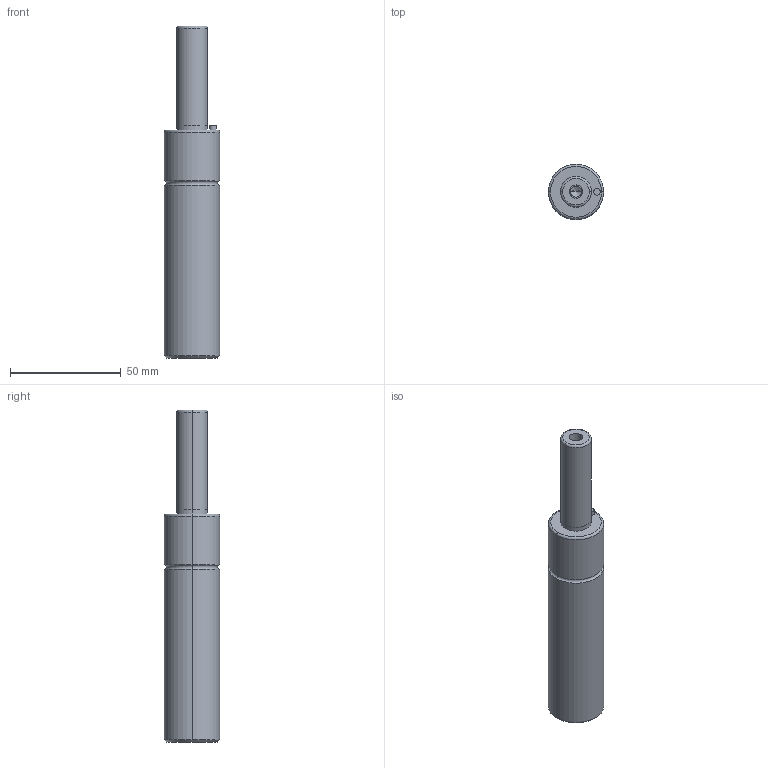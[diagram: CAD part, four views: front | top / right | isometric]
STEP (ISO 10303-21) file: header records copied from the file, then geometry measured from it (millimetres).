
FILE_DESCRIPTION(/* description */ (''),/* implementation_level */ '2;1');
FILE_NAME(/* name */ '3d_gsm25-45_03915_r00.stp',/* time_stamp */ '2011-01-10T14:15:17+09:00',/* author */ ('MISUMI'),/* organization */ (''),/* preprocessor_version */ 'ST-DEVELOPER v11',/* originating_system */ 'UGS - NX 5.0',/* authorisation */ '');
FILE_SCHEMA (('CONFIG_CONTROL_DESIGN'));
Length unit declared in the file: millimetre
Products named in the file (1): 3d_gsm25-45_03915_r00
Bounding box: 25 x 25 x 150 mm (x, y, z)
Volume: 57083.7 mm3; surface area: 11498.2 mm2
Topology: 1 solids, 1 shells, 36 faces, 74 edges, 42 vertices
Faces by surface type: cylinder 18, cone 6, plane 6, torus 6
Entity records: 1014 total; most frequent: DIRECTION 190, CARTESIAN_POINT 149, ORIENTED_EDGE 140, AXIS2_PLACEMENT_3D 83, EDGE_CURVE 70, CIRCLE 46, EDGE_LOOP 42, VERTEX_POINT 42
